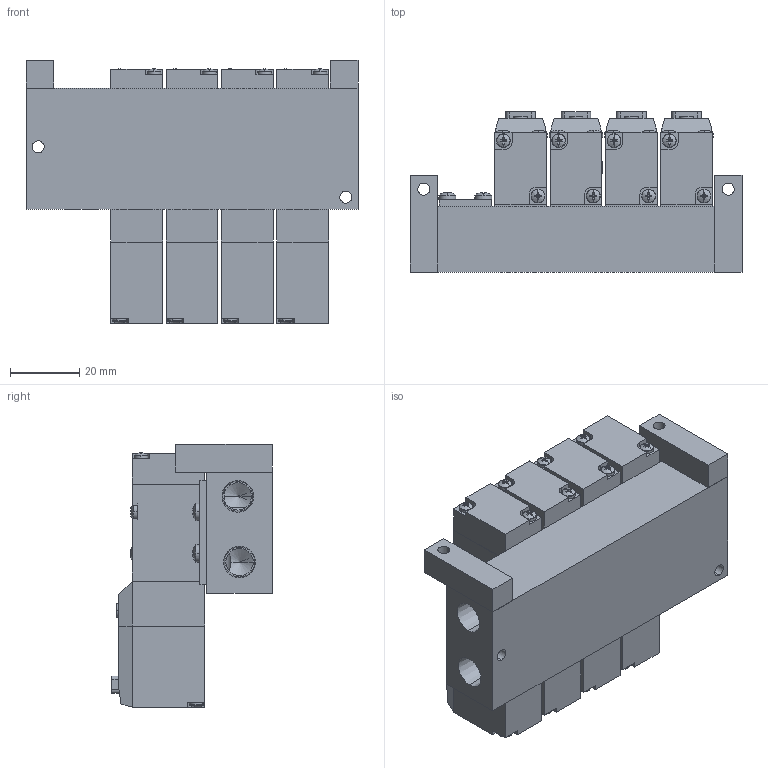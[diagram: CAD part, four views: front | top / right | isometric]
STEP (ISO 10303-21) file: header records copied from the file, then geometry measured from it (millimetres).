
FILE_DESCRIPTION (( 'STEP AP203' ), '1' );
FILE_NAME ('MFS#-PD5-M5-B-U.STEP', '2016-02-04T03:31:35', ( 'Sam Lin' ), ( '' ), 'SwSTEP 2.0', 'SolidWorks 2013', '' );
FILE_SCHEMA (( 'CONFIG_CONTROL_DESIGN' ));
Length unit declared in the file: metre
Products named in the file (11): PC5-4; PC5-3-U; MFS-02; MFS#-PD5-M5-B; ISO 7045 - M2.5 x 25; MFS#-PD5-M5-B-U; PC5-2; ISO 7045 - M2 x 10; PC5-5; PC-MARK; PC5-6
Assembly tree (52 placements, depth 2):
  MFS#-PD5-M5-B-U
    MFS-02
    ISO 7045 - M2.5 x 25  x10
    PC5-2  x4
    ISO 7045 - M2 x 10  x16
    PC5-5  x4
    PC-MARK  x4
    PC5-6  x4
    PC5-4  x4
    PC5-3-U  x4
    MFS#-PD5-M5-B
Bounding box: 96 x 46.5 x 76.07 mm (x, y, z)
Volume: 163179.1 mm3; surface area: 58947.4 mm2
Topology: 78 solids, 78 shells, 1963 faces, 4820 edges, 2984 vertices
Faces by surface type: plane 1099, cylinder 370, cone 306, bspline 188
Entity records: 13713 total; most frequent: CARTESIAN_POINT 2522, DIRECTION 1892, ORIENTED_EDGE 1788, EDGE_CURVE 894, AXIS2_PLACEMENT_3D 678, VERTEX_POINT 578, VECTOR 536, LINE 536
